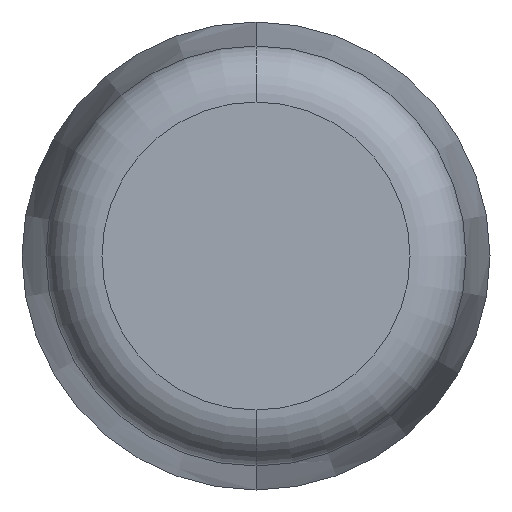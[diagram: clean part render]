
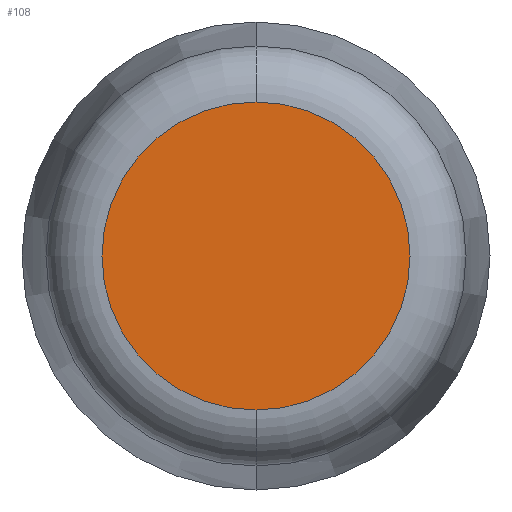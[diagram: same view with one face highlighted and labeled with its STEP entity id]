
A CAD part, front view. The second image highlights one B-rep face of the part: STEP entity #108.
In plain terms, the highlighted planar face has unit normal (0, -1, 0).
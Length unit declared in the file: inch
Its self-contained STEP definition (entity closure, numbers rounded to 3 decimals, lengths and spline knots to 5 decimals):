
#65 = DIRECTION ( 'NONE',  ( 0., 1., 0. ) ) ;
#68 = CARTESIAN_POINT ( 'NONE',  ( 0., 0., 0. ) ) ;
#72 = DIRECTION ( 'NONE',  ( 0., -1., 0. ) ) ;
#82 = EDGE_CURVE ( 'NONE', #322, #104, #137, .T. ) ;
#96 = DIRECTION ( 'NONE',  ( 0., -1., 0. ) ) ;
#104 = VERTEX_POINT ( 'NONE', #122 ) ;
#108 = ADVANCED_FACE ( 'NONE', ( #264 ), #278, .F. ) ;
#119 = ORIENTED_EDGE ( 'NONE', *, *, #247, .T. ) ;
#122 = CARTESIAN_POINT ( 'NONE',  ( 0., 0., -0.16461 ) ) ;
#130 = AXIS2_PLACEMENT_3D ( 'NONE', #157, #72, #226 ) ;
#137 = CIRCLE ( 'NONE', #311, 0.16461 ) ;
#157 = CARTESIAN_POINT ( 'NONE',  ( 0., 0., 0. ) ) ;
#174 = CARTESIAN_POINT ( 'NONE',  ( 0., 0., 0.16461 ) ) ;
#226 = DIRECTION ( 'NONE',  ( 0., 0., 1. ) ) ;
#247 = EDGE_CURVE ( 'NONE', #104, #322, #320, .T. ) ;
#251 = DIRECTION ( 'NONE',  ( 0., 0., 1. ) ) ;
#260 = EDGE_LOOP ( 'NONE', ( #330, #119 ) ) ;
#264 = FACE_OUTER_BOUND ( 'NONE', #260, .T. ) ;
#278 = PLANE ( 'NONE',  #384 ) ;
#279 = DIRECTION ( 'NONE',  ( 0., 0., 1. ) ) ;
#309 = CARTESIAN_POINT ( 'NONE',  ( 0., 0., 0. ) ) ;
#311 = AXIS2_PLACEMENT_3D ( 'NONE', #309, #96, #279 ) ;
#320 = CIRCLE ( 'NONE', #130, 0.16461 ) ;
#322 = VERTEX_POINT ( 'NONE', #174 ) ;
#330 = ORIENTED_EDGE ( 'NONE', *, *, #82, .T. ) ;
#384 = AXIS2_PLACEMENT_3D ( 'NONE', #68, #65, #251 ) ;
